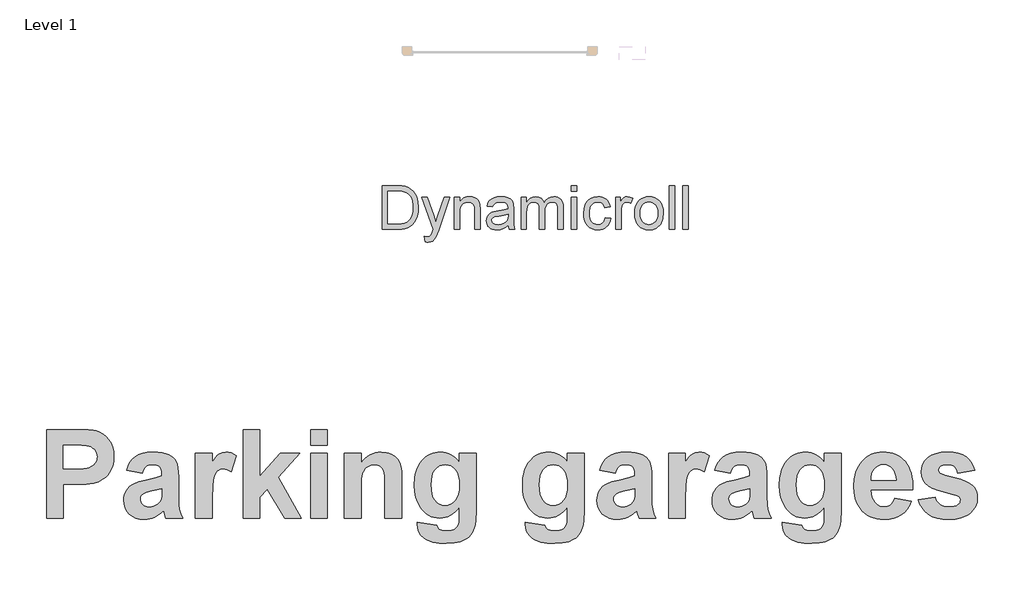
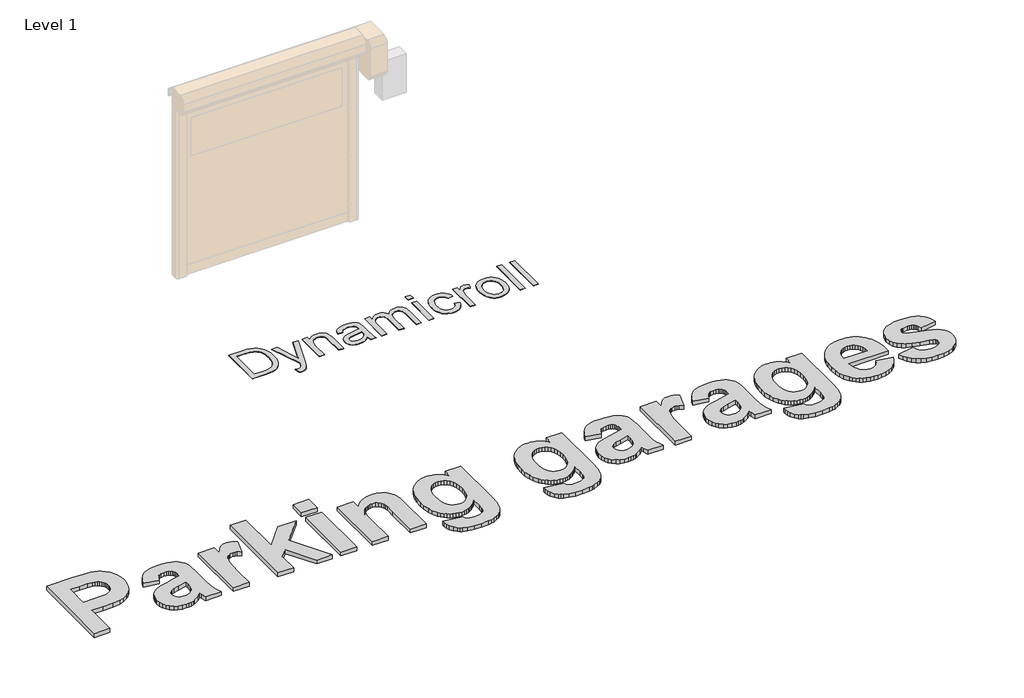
# One storey, part 17 of 17: 2 proxies.
"""IFC4 building model written with IfcOpenShell, lengths in millimetres."""

from ifc_helpers import new_model, si_unit, origin, origin_with_axes, place, context, project, spatial, polyline, outline, extrude, element, save

model = new_model("IFC4")

# Units and contexts
model_context = context("Model", 3, world=origin())
ifc_project = project(units=[si_unit("LENGTHUNIT", "METRE", prefix="MILLI")], contexts=[model_context])

# Site, building, storey
site = spatial("IfcSite", under=ifc_project)
building = spatial("IfcBuilding", under=site)
storey = spatial("IfcBuildingStorey", under=building, Name="Level 1", Elevation=0.0)

# Proxies
placement = place(None, origin())
element("IfcBuildingElementProxy", 1, Name="1000", ObjectType="1000", at=placement, inside=storey, context=model_context, shape_type="SweptSolid", body=[
    extrude(outline(polyline([(-782.7548717, 74991.5736553), (-782.7548717, 76011.8330553), (-454.0552287, 76011.8330553), (-299.6372478, 76008.0374474), (-246.8624832, 76003.2929375), (-210.3772023, 75996.6506237), (-168.5069028, 75981.9031056), (-130.1949857, 75960.4341985), (-95.441451, 75932.2439024), (-64.2462987, 75897.3322174), (-38.5073327, 75856.2842996), (-20.122357, 75809.6853052), (-9.0913716, 75757.5352344), (-5.4143765, 75699.834087), (-7.5731284, 75655.0063763), (-14.0493844, 75613.8951984), (-24.8431443, 75576.5005532), (-39.9544082, 75542.8224407), (-58.3947365, 75512.7106182), (-79.1756897, 75486.0148427), (-102.2972678, 75462.7351143), (-127.7594707, 75442.871433), (-181.4356922, 75412.6647203), (-235.9342954, 75394.6672129), (-327.3451854, 75383.8497304), (-452.283945, 75380.2439029), (-588.4197479, 75380.2439029), (-588.4197479, 74991.5736553), (-782.7548717, 74991.5736553)]), holes=[polyline([(-588.4197479, 75833.6925251), (-588.4197479, 75558.3844331), (-467.7194171, 75558.3844331), (-359.0068812, 75562.180041), (-320.8531144, 75566.9245508), (-293.5010151, 75573.5668646), (-254.3429937, 75593.0826152), (-238.3223654, 75606.0904797), (-224.673992, 75621.2650037), (-213.7695269, 75638.1791814), (-205.9806232, 75656.4060067), (-201.307281, 75675.9454798), (-199.7495003, 75696.7976007), (-201.9398823, 75722.0858382), (-208.5110285, 75745.065081), (-219.4629387, 75765.7353289), (-234.7956131, 75784.0965821), (-253.4652594, 75799.6902045), (-274.4280854, 75812.0575602), (-297.6840913, 75821.1986492), (-323.2332768, 75827.1134714), (-382.6345403, 75832.0477617), (-481.8896865, 75833.6925251), (-588.4197479, 75833.6925251)])]), origin_with_axes(), (0.0, 0.0, 1.0), 50.0),
    extrude(outline(polyline([(318.4774965, 75509.8006521), (140.3369664, 75542.1898394), (157.0771787, 75592.3551237), (178.9572766, 75635.5617934), (205.9772603, 75671.8098487), (238.1371296, 75701.0992896), (277.065833, 75723.6831565), (324.3923188, 75739.8144901), (380.1165871, 75749.4932902), (444.2386379, 75752.7195569), (502.3905137, 75750.7664003), (552.603243, 75744.9069306), (594.8768259, 75735.1411478), (629.2112622, 75721.4690519), (657.3303906, 75704.8000073), (680.9580497, 75686.0433783), (700.0942395, 75665.199165), (714.7389599, 75642.2673674), (725.5880725, 75613.2705046), (733.3374386, 75574.231096), (737.9870582, 75525.1491415), (739.5369315, 75466.0246412), (739.5369315, 75236.2638437), (742.0989668, 75150.9891866), (749.7850727, 75091.524663), (764.4930533, 75043.2571827), (788.1207124, 74991.5736553), (593.7855886, 74991.5736553), (575.5666707, 75053.3155436), (568.7345765, 75077.8604746), (518.442772, 75033.1039316), (464.7349205, 75001.062675), (436.5683469, 74989.8260942), (407.4845015, 74981.799965), (377.4833842, 74976.9842875), (346.5649949, 74975.3790617), (294.0828084, 74979.2774673), (247.467999, 74990.9726841), (206.7205668, 75010.4647121), (171.8405119, 75037.7535513), (143.8874413, 75070.9888428), (123.9209623, 75108.3202279), (111.9410749, 75149.7477065), (107.9477791, 75195.2712786), (109.7269703, 75225.9208123), (115.0645439, 75254.8623224), (123.9604999, 75282.095809), (136.4148382, 75307.621272), (152.0796283, 75330.8535553), (170.6069393, 75351.2075026), (191.9967712, 75368.6831139), (216.2491241, 75383.2803892), (278.9399144, 75407.8885804), (364.2778317, 75429.0807244), (474.7932814, 75454.0684763), (545.2018076, 75477.4114648), (545.2018076, 75497.9077474), (543.691472, 75525.2677543), (539.1604651, 75548.3893323), (531.6087869, 75567.2724815), (521.0364374, 75581.917202), (506.2889193, 75592.8770197), (486.2117351, 75600.705461), (460.8048848, 75605.4025258), (430.0683684, 75606.968214), (389.7716647, 75601.5911028), (373.3714756, 75594.8697139), (359.4700617, 75585.4597693), (347.4190067, 75572.6654077), (336.5698941, 75555.7907677), (318.4774965, 75509.8006521)]), holes=[polyline([(545.2018076, 75331.660122), (435.63526, 75304.711306), (373.6403312, 75289.2442038), (337.455536, 75273.9668821), (322.067509, 75260.9827401), (311.0760612, 75246.3222046), (304.4811925, 75229.9852757), (302.2829029, 75211.9719533), (304.0462791, 75194.1246887), (309.3364076, 75177.5268117), (318.1532884, 75162.1783223), (330.4969215, 75148.0792205), (345.5607403, 75136.2891135), (362.5381781, 75127.8676085), (381.4292349, 75122.8147055), (402.2339106, 75121.1304045), (426.3518357, 75123.0914686), (449.8687896, 75128.9746608), (472.7847722, 75138.7799812), (495.0997835, 75152.5074297), (522.3016401, 75178.9501647), (538.1166729, 75210.7067506), (543.430524, 75243.4122386), (545.2018076, 75296.4874889), (545.2018076, 75331.660122)])]), origin_with_axes(), (0.0, 0.0, 1.0), 50.0),
    extrude(outline(polyline([(1128.2071791, 74991.5736553), (933.8720553, 74991.5736553), (933.8720553, 75736.5249632), (1128.2071791, 75736.5249632), (1128.2071791, 75632.7783476), (1169.2630044, 75693.7927444), (1188.1303386, 75714.8346456), (1205.8906205, 75729.5663488), (1242.708017, 75746.9312548), (1284.3331835, 75752.7195569), (1314.935272, 75750.1575215), (1344.9996495, 75742.4714156), (1374.5263159, 75729.661239), (1403.5152711, 75711.7269917), (1346.8341933, 75526.7543673), (1300.0216961, 75550.4769166), (1277.9439102, 75556.407554), (1256.7517662, 75558.3844331), (1219.3966585, 75552.8491716), (1203.0676371, 75545.9300947), (1188.3043039, 75536.2433871), (1175.0671214, 75522.9508519), (1163.316552, 75505.2142926), (1144.2752524, 75456.4091012), (1137.2454703, 75419.6549648), (1132.2241974, 75367.0857956), (1128.2071791, 75214.5023585), (1128.2071791, 74991.5736553)])), origin_with_axes(), (0.0, 0.0, 1.0), 50.0),
    extrude(outline(polyline([(1484.4882394, 74991.5736553), (1484.4882394, 76011.8330553), (1678.8233632, 76011.8330553), (1678.8233632, 75474.121938), (1913.6449711, 75736.5249632), (2140.3692822, 75736.5249632), (1890.6182832, 75462.7351143), (2156.5638758, 74991.5736553), (1962.228752, 74991.5736553), (1765.6162635, 75325.3341088), (1678.8233632, 75230.1908711), (1678.8233632, 74991.5736553), (1484.4882394, 74991.5736553)])), origin_with_axes(), (0.0, 0.0, 1.0), 50.0),
    extrude(outline(polyline([(2261.8287346, 75833.6925251), (2261.8287346, 76011.8330553), (2456.1638584, 76011.8330553), (2456.1638584, 75833.6925251), (2261.8287346, 75833.6925251)])), origin_with_axes(), (0.0, 0.0, 1.0), 50.0),
    extrude(outline(polyline([(2261.8287346, 74991.5736553), (2261.8287346, 75736.5249632), (2456.1638584, 75736.5249632), (2456.1638584, 74991.5736553), (2261.8287346, 74991.5736553)])), origin_with_axes(), (0.0, 0.0, 1.0), 50.0),
    extrude(outline(polyline([(3314.4773218, 74991.5736553), (3120.142198, 74991.5736553), (3120.142198, 75374.4239708), (3117.1057117, 75474.628019), (3113.3101038, 75508.5987096), (3107.9962528, 75531.8151779), (3091.9914395, 75563.5085037), (3068.2688902, 75587.231053), (3037.9672873, 75602.0339238), (3002.225313, 75606.968214), (2978.0678503, 75605.2048379), (2955.1914053, 75599.9147094), (2933.5959779, 75591.0978285), (2913.2815682, 75578.7541954), (2895.1575405, 75563.4926887), (2880.1332593, 75545.9221872), (2868.2087245, 75526.0426909), (2859.3839362, 75503.8541998), (2853.0183855, 75475.5690135), (2848.4715635, 75437.3994317), (2844.834106, 75331.4070814), (2844.834106, 74991.5736553), (2650.4989822, 74991.5736553), (2650.4989822, 75736.5249632), (2844.834106, 75736.5249632), (2844.834106, 75629.2357803), (2868.6713142, 75658.1772904), (2894.0030431, 75683.2599325), (2920.8292926, 75704.4837066), (2949.1500627, 75721.8486127), (2978.9653534, 75735.3546508), (3010.2751647, 75745.0018208), (3043.0794966, 75750.7901229), (3077.3783492, 75752.7195569), (3136.4633119, 75746.8363646), (3164.0130992, 75739.4823744), (3190.2344237, 75729.186788), (3235.149117, 75702.4277524), (3252.956844, 75686.6285345), (3267.6648245, 75669.2161834), (3289.9640209, 75630.3428326), (3304.2291805, 75586.5984517), (3311.9152865, 75530.3918249), (3314.4773218, 75454.1317364), (3314.4773218, 74991.5736553)])), origin_with_axes(), (0.0, 0.0, 1.0), 50.0),
    extrude(outline(polyline([(3492.617852, 74942.9898744), (3719.3421631, 74910.6006871), (3728.0088011, 74882.0071076), (3743.381013, 74864.0412303), (3758.3894792, 74856.0704538), (3777.0986631, 74850.3770419), (3825.6191839, 74845.8223125), (3859.3052039, 74847.2614804), (3888.4997546, 74851.5789844), (3913.2028359, 74858.7748244), (3933.4144479, 74868.8490003), (3954.5433318, 74889.0289822), (3969.8522836, 74918.6979839), (3976.304817, 74953.6175764), (3978.4556615, 75009.2864921), (3978.4556615, 75117.8408777), (3953.9067767, 75088.2469974), (3928.3378223, 75062.5989679), (3901.7487983, 75040.896789), (3874.1397047, 75023.1404609), (3845.5105415, 75009.3299835), (3815.8613086, 74999.4653567), (3785.1920061, 74993.5465807), (3753.5026341, 74991.5736553), (3718.5079201, 74993.5544882), (3685.3872875, 74999.4969868), (3654.1407363, 75009.4011511), (3624.7682666, 75023.2669812), (3597.2698782, 75041.094477), (3571.6455712, 75062.8836385), (3547.8953456, 75088.6344657), (3526.0192014, 75118.3469587), (3497.2358416, 75171.5170992), (3476.6762988, 75230.8234724), (3464.3405732, 75296.2660784), (3460.2286647, 75367.8449171), (3465.6136834, 75455.9425577), (3472.3449567, 75495.8458625), (3481.7687394, 75532.9854903), (3493.8850315, 75567.3614411), (3508.6938329, 75598.9737149), (3526.1951436, 75627.8223117), (3546.3889637, 75653.9072315), (3592.1023162, 75697.1376239), (3616.9338947, 75714.1209923), (3643.0820746, 75728.0164755), (3670.5468561, 75738.8240736), (3699.328239, 75746.5437865), (3729.4262234, 75751.1756143), (3760.8408093, 75752.7195569), (3793.1351064, 75750.8889668), (3823.9744205, 75745.3971967), (3853.3587515, 75736.2442464), (3881.2880996, 75723.430116), (3907.7624646, 75706.9548055), (3932.7818466, 75686.8183149), (3956.3462455, 75663.0206442), (3978.4556615, 75635.5617934), (3978.4556615, 75736.5249632), (4172.7907853, 75736.5249632), (4172.7907853, 75074.8239883), (4167.5085643, 74960.9241216), (4160.9057881, 74916.2861914), (4151.6619014, 74879.8562632), (4140.0378522, 74849.2778971), (4126.2945887, 74822.1946534), (4110.4321107, 74798.6065319), (4092.4504183, 74778.5135326), (4071.8118005, 74761.156534), (4047.9785459, 74745.7764146), (3990.728127, 74720.946813), (3956.796974, 74711.8136315), (3918.6432072, 74705.2899305), (3829.6678323, 74700.0709696), (3744.3773601, 74703.9614677), (3672.4664057, 74715.6329619), (3613.934969, 74735.0854524), (3589.6865699, 74747.7295711), (3568.7830502, 74762.318939), (3535.1286603, 74795.530508), (3511.0898104, 74832.9172456), (3496.6665004, 74874.479152), (3491.8587304, 74920.216227), (3492.617852, 74942.9898744)]), holes=[polyline([(3654.5637885, 75375.1830924), (3657.3709568, 75317.5847427), (3665.7924618, 75268.2734703), (3679.8283035, 75227.249275), (3699.4784818, 75194.512157), (3723.2563837, 75169.492775), (3749.6753961, 75151.6217879), (3778.735519, 75140.8991956), (3810.4367524, 75137.3249982), (3844.3679054, 75140.9940858), (3875.5630577, 75152.0013487), (3904.0222093, 75170.3467868), (3929.7453603, 75196.0304001), (3951.056117, 75228.9098535), (3966.2780862, 75268.8428114), (3975.4112676, 75315.8292741), (3978.4556615, 75369.8692414), (3975.5377879, 75426.2102959), (3966.7841672, 75474.7861694), (3952.1947994, 75515.5968617), (3931.7696845, 75548.6423728), (3906.8847303, 75574.1599283), (3878.9158446, 75592.3867537), (3847.8630276, 75603.3228489), (3813.7262792, 75606.968214), (3780.5858778, 75603.3940166), (3750.4977778, 75592.6714243), (3723.4619791, 75574.8004372), (3699.4784818, 75549.7810552), (3679.8283035, 75517.423498), (3665.7924618, 75477.5379851), (3657.3709568, 75430.1245166), (3654.5637885, 75375.1830924)])]), origin_with_axes(), (0.0, 0.0, 1.0), 50.0),
    extrude(outline(polyline([(4739.601563, 74942.9898744), (4966.3258741, 74910.6006871), (4974.9925121, 74882.0071076), (4990.3647241, 74864.0412303), (5005.3731903, 74856.0704538), (5024.0823741, 74850.3770419), (5072.602895, 74845.8223125), (5106.288915, 74847.2614804), (5135.4834656, 74851.5789844), (5160.1865469, 74858.7748244), (5180.3981589, 74868.8490003), (5201.5270428, 74889.0289822), (5216.8359947, 74918.6979839), (5223.2885281, 74953.6175764), (5225.4393725, 75009.2864921), (5225.4393725, 75117.8408777), (5200.8904878, 75088.2469974), (5175.3215334, 75062.5989679), (5148.7325094, 75040.896789), (5121.1234158, 75023.1404609), (5092.4942525, 75009.3299835), (5062.8450197, 74999.4653567), (5032.1757172, 74993.5465807), (5000.4863451, 74991.5736553), (4965.4916311, 74993.5544882), (4932.3709986, 74999.4969868), (4901.1244474, 75009.4011511), (4871.7519776, 75023.2669812), (4844.2535892, 75041.094477), (4818.6292822, 75062.8836385), (4794.8790566, 75088.6344657), (4773.0029124, 75118.3469587), (4744.2195526, 75171.5170992), (4723.6600099, 75230.8234724), (4711.3242843, 75296.2660784), (4707.2123757, 75367.8449171), (4712.5973944, 75455.9425577), (4719.3286678, 75495.8458625), (4728.7524505, 75532.9854903), (4740.8687425, 75567.3614411), (4755.6775439, 75598.9737149), (4773.1788547, 75627.8223117), (4793.3726748, 75653.9072315), (4839.0860272, 75697.1376239), (4863.9176057, 75714.1209923), (4890.0657857, 75728.0164755), (4917.5305671, 75738.8240736), (4946.31195, 75746.5437865), (4976.4099345, 75751.1756143), (5007.8245204, 75752.7195569), (5040.1188175, 75750.8889668), (5070.9581315, 75745.3971967), (5100.3424626, 75736.2442464), (5128.2718106, 75723.430116), (5154.7461756, 75706.9548055), (5179.7655576, 75686.8183149), (5203.3299566, 75663.0206442), (5225.4393725, 75635.5617934), (5225.4393725, 75736.5249632), (5419.7744963, 75736.5249632), (5419.7744963, 75074.8239883), (5414.4922754, 74960.9241216), (5407.8894991, 74916.2861914), (5398.6456124, 74879.8562632), (5387.0215633, 74849.2778971), (5373.2782997, 74822.1946534), (5357.4158218, 74798.6065319), (5339.4341294, 74778.5135326), (5318.7955115, 74761.156534), (5294.962257, 74745.7764146), (5237.711838, 74720.946813), (5203.780685, 74711.8136315), (5165.6269182, 74705.2899305), (5076.6515434, 74700.0709696), (4991.3610711, 74703.9614677), (4919.4501167, 74715.6329619), (4860.9186801, 74735.0854524), (4836.670281, 74747.7295711), (4815.7667613, 74762.318939), (4782.1123714, 74795.530508), (4758.0735214, 74832.9172456), (4743.6502114, 74874.479152), (4738.8424415, 74920.216227), (4739.601563, 74942.9898744)]), holes=[polyline([(4901.5474995, 75375.1830924), (4904.3546679, 75317.5847427), (4912.7761729, 75268.2734703), (4926.8120145, 75227.249275), (4946.4621929, 75194.512157), (4970.2400948, 75169.492775), (4996.6591072, 75151.6217879), (5025.71923, 75140.8991956), (5057.4204634, 75137.3249982), (5091.3516164, 75140.9940858), (5122.5467687, 75152.0013487), (5151.0059204, 75170.3467868), (5176.7290713, 75196.0304001), (5198.0398281, 75228.9098535), (5213.2617972, 75268.8428114), (5222.3949787, 75315.8292741), (5225.4393725, 75369.8692414), (5222.521499, 75426.2102959), (5213.7678783, 75474.7861694), (5199.1785105, 75515.5968617), (5178.7533955, 75548.6423728), (5153.8684413, 75574.1599283), (5125.8995557, 75592.3867537), (5094.8467387, 75603.3228489), (5060.7099902, 75606.968214), (5027.5695889, 75603.3940166), (4997.4814889, 75592.6714243), (4970.4456902, 75574.8004372), (4946.4621929, 75549.7810552), (4926.8120145, 75517.423498), (4912.7761729, 75477.5379851), (4904.3546679, 75430.1245166), (4901.5474995, 75375.1830924)])]), origin_with_axes(), (0.0, 0.0, 1.0), 50.0),
    extrude(outline(polyline([(5776.0555566, 75509.8006521), (5597.9150265, 75542.1898394), (5614.6552388, 75592.3551237), (5636.5353367, 75635.5617934), (5663.5553204, 75671.8098487), (5695.7151897, 75701.0992896), (5734.6438931, 75723.6831565), (5781.9703789, 75739.8144901), (5837.6946472, 75749.4932902), (5901.8166979, 75752.7195569), (5959.9685738, 75750.7664003), (6010.1813031, 75744.9069306), (6052.454886, 75735.1411478), (6086.7893223, 75721.4690519), (6114.9084507, 75704.8000073), (6138.5361098, 75686.0433783), (6157.6722996, 75665.199165), (6172.31702, 75642.2673674), (6183.1661326, 75613.2705046), (6190.9154987, 75574.231096), (6195.5651183, 75525.1491415), (6197.1149915, 75466.0246412), (6197.1149915, 75236.2638437), (6199.6770269, 75150.9891866), (6207.3631328, 75091.524663), (6222.0711134, 75043.2571827), (6245.6987725, 74991.5736553), (6051.3636487, 74991.5736553), (6033.1447308, 75053.3155436), (6026.3126366, 75077.8604746), (5976.0208321, 75033.1039316), (5922.3129805, 75001.062675), (5894.146407, 74989.8260942), (5865.0625616, 74981.799965), (5835.0614442, 74976.9842875), (5804.143055, 74975.3790617), (5751.6608684, 74979.2774673), (5705.0460591, 74990.9726841), (5664.2986269, 75010.4647121), (5629.4185719, 75037.7535513), (5601.4655014, 75070.9888428), (5581.4990224, 75108.3202279), (5569.519135, 75149.7477065), (5565.5258392, 75195.2712786), (5567.3050304, 75225.9208123), (5572.642604, 75254.8623224), (5581.53856, 75282.095809), (5593.9928983, 75307.621272), (5609.6576884, 75330.8535553), (5628.1849994, 75351.2075026), (5649.5748313, 75368.6831139), (5673.8271842, 75383.2803892), (5736.5179745, 75407.8885804), (5821.8558918, 75429.0807244), (5932.3713414, 75454.0684763), (6002.7798677, 75477.4114648), (6002.7798677, 75497.9077474), (6001.2695321, 75525.2677543), (5996.7385252, 75548.3893323), (5989.186847, 75567.2724815), (5978.6144975, 75581.917202), (5963.8669794, 75592.8770197), (5943.7897952, 75600.705461), (5918.3829449, 75605.4025258), (5887.6464285, 75606.968214), (5847.3497248, 75601.5911028), (5830.9495357, 75594.8697139), (5817.0481218, 75585.4597693), (5804.9970668, 75572.6654077), (5794.1479542, 75555.7907677), (5776.0555566, 75509.8006521)]), holes=[polyline([(6002.7798677, 75331.660122), (5893.2133201, 75304.711306), (5831.2183913, 75289.2442038), (5795.0335961, 75273.9668821), (5779.6455691, 75260.9827401), (5768.6541213, 75246.3222046), (5762.0592526, 75229.9852757), (5759.860963, 75211.9719533), (5761.6243391, 75194.1246887), (5766.9144676, 75177.5268117), (5775.7313485, 75162.1783223), (5788.0749816, 75148.0792205), (5803.1388004, 75136.2891135), (5820.1162382, 75127.8676085), (5839.0072949, 75122.8147055), (5859.8119707, 75121.1304045), (5883.9298958, 75123.0914686), (5907.4468496, 75128.9746608), (5930.3628323, 75138.7799812), (5952.6778436, 75152.5074297), (5979.8797002, 75178.9501647), (5995.694733, 75210.7067506), (6001.0085841, 75243.4122386), (6002.7798677, 75296.4874889), (6002.7798677, 75331.660122)])]), origin_with_axes(), (0.0, 0.0, 1.0), 50.0),
    extrude(outline(polyline([(6585.7852391, 74991.5736553), (6391.4501153, 74991.5736553), (6391.4501153, 75736.5249632), (6585.7852391, 75736.5249632), (6585.7852391, 75632.7783476), (6626.8410644, 75693.7927444), (6645.7083987, 75714.8346456), (6663.4686806, 75729.5663488), (6700.2860771, 75746.9312548), (6741.9112435, 75752.7195569), (6772.5133321, 75750.1575215), (6802.5777096, 75742.4714156), (6832.104376, 75729.661239), (6861.0933312, 75711.7269917), (6804.4122534, 75526.7543673), (6757.5997561, 75550.4769166), (6735.5219703, 75556.407554), (6714.3298262, 75558.3844331), (6676.9747186, 75552.8491716), (6660.6456972, 75545.9300947), (6645.882364, 75536.2433871), (6632.6451815, 75522.9508519), (6620.8946121, 75505.2142926), (6601.8533125, 75456.4091012), (6594.8235304, 75419.6549648), (6589.8022575, 75367.0857956), (6585.7852391, 75214.5023585), (6585.7852391, 74991.5736553)])), origin_with_axes(), (0.0, 0.0, 1.0), 50.0),
    extrude(outline(polyline([(7104.0122359, 75509.8006521), (6925.8717058, 75542.1898394), (6942.6119181, 75592.3551237), (6964.492016, 75635.5617934), (6991.5119997, 75671.8098487), (7023.671869, 75701.0992896), (7062.6005724, 75723.6831565), (7109.9270582, 75739.8144901), (7165.6513265, 75749.4932902), (7229.7733773, 75752.7195569), (7287.9252531, 75750.7664003), (7338.1379824, 75744.9069306), (7380.4115653, 75735.1411478), (7414.7460016, 75721.4690519), (7442.86513, 75704.8000073), (7466.4927891, 75686.0433783), (7485.6289789, 75665.199165), (7500.2736993, 75642.2673674), (7511.1228119, 75613.2705046), (7518.872178, 75574.231096), (7523.5217976, 75525.1491415), (7525.0716708, 75466.0246412), (7525.0716708, 75236.2638437), (7527.6337062, 75150.9891866), (7535.3198121, 75091.524663), (7550.0277927, 75043.2571827), (7573.6554518, 74991.5736553), (7379.320328, 74991.5736553), (7361.1014101, 75053.3155436), (7354.2693159, 75077.8604746), (7303.9775114, 75033.1039316), (7250.2696598, 75001.062675), (7222.1030863, 74989.8260942), (7193.0192409, 74981.799965), (7163.0181236, 74976.9842875), (7132.0997343, 74975.3790617), (7079.6175478, 74979.2774673), (7033.0027384, 74990.9726841), (6992.2553062, 75010.4647121), (6957.3752513, 75037.7535513), (6929.4221807, 75070.9888428), (6909.4557017, 75108.3202279), (6897.4758143, 75149.7477065), (6893.4825185, 75195.2712786), (6895.2617097, 75225.9208123), (6900.5992833, 75254.8623224), (6909.4952393, 75282.095809), (6921.9495776, 75307.621272), (6937.6143677, 75330.8535553), (6956.1416787, 75351.2075026), (6977.5315106, 75368.6831139), (7001.7838635, 75383.2803892), (7064.4746538, 75407.8885804), (7149.8125711, 75429.0807244), (7260.3280207, 75454.0684763), (7330.736547, 75477.4114648), (7330.736547, 75497.9077474), (7329.2262114, 75525.2677543), (7324.6952045, 75548.3893323), (7317.1435263, 75567.2724815), (7306.5711768, 75581.917202), (7291.8236587, 75592.8770197), (7271.7464745, 75600.705461), (7246.3396242, 75605.4025258), (7215.6031078, 75606.968214), (7175.3064041, 75601.5911028), (7158.906215, 75594.8697139), (7145.0048011, 75585.4597693), (7132.9537461, 75572.6654077), (7122.1046335, 75555.7907677), (7104.0122359, 75509.8006521)]), holes=[polyline([(7330.736547, 75331.660122), (7221.1699994, 75304.711306), (7159.1750706, 75289.2442038), (7122.9902754, 75273.9668821), (7107.6022484, 75260.9827401), (7096.6108006, 75246.3222046), (7090.0159319, 75229.9852757), (7087.8176423, 75211.9719533), (7089.5810185, 75194.1246887), (7094.871147, 75177.5268117), (7103.6880278, 75162.1783223), (7116.0316609, 75148.0792205), (7131.0954797, 75136.2891135), (7148.0729175, 75127.8676085), (7166.9639742, 75122.8147055), (7187.76865, 75121.1304045), (7211.8865751, 75123.0914686), (7235.403529, 75128.9746608), (7258.3195116, 75138.7799812), (7280.6345229, 75152.5074297), (7307.8363795, 75178.9501647), (7323.6514123, 75210.7067506), (7328.9652634, 75243.4122386), (7330.736547, 75296.4874889), (7330.736547, 75331.660122)])]), origin_with_axes(), (0.0, 0.0, 1.0), 50.0),
    extrude(outline(polyline([(7703.212201, 74942.9898744), (7929.9365121, 74910.6006871), (7938.6031501, 74882.0071076), (7953.975362, 74864.0412303), (7968.9838282, 74856.0704538), (7987.6930121, 74850.3770419), (8036.2135329, 74845.8223125), (8069.8995529, 74847.2614804), (8099.0941036, 74851.5789844), (8123.7971849, 74858.7748244), (8144.0087969, 74868.8490003), (8165.1376808, 74889.0289822), (8180.4466326, 74918.6979839), (8186.899166, 74953.6175764), (8189.0500105, 75009.2864921), (8189.0500105, 75117.8408777), (8164.5011257, 75088.2469974), (8138.9321714, 75062.5989679), (8112.3431474, 75040.896789), (8084.7340537, 75023.1404609), (8056.1048905, 75009.3299835), (8026.4556577, 74999.4653567), (7995.7863552, 74993.5465807), (7964.0969831, 74991.5736553), (7929.1022691, 74993.5544882), (7895.9816365, 74999.4969868), (7864.7350854, 75009.4011511), (7835.3626156, 75023.2669812), (7807.8642272, 75041.094477), (7782.2399202, 75062.8836385), (7758.4896946, 75088.6344657), (7736.6135504, 75118.3469587), (7707.8301906, 75171.5170992), (7687.2706479, 75230.8234724), (7674.9349222, 75296.2660784), (7670.8230137, 75367.8449171), (7676.2080324, 75455.9425577), (7682.9393057, 75495.8458625), (7692.3630885, 75532.9854903), (7704.4793805, 75567.3614411), (7719.2881819, 75598.9737149), (7736.7894926, 75627.8223117), (7756.9833127, 75653.9072315), (7802.6966652, 75697.1376239), (7827.5282437, 75714.1209923), (7853.6764236, 75728.0164755), (7881.1412051, 75738.8240736), (7909.922588, 75746.5437865), (7940.0205724, 75751.1756143), (7971.4351583, 75752.7195569), (8003.7294554, 75750.8889668), (8034.5687695, 75745.3971967), (8063.9531006, 75736.2442464), (8091.8824486, 75723.430116), (8118.3568136, 75706.9548055), (8143.3761956, 75686.8183149), (8166.9405946, 75663.0206442), (8189.0500105, 75635.5617934), (8189.0500105, 75736.5249632), (8383.3851343, 75736.5249632), (8383.3851343, 75074.8239883), (8378.1029133, 74960.9241216), (8371.5001371, 74916.2861914), (8362.2562504, 74879.8562632), (8350.6322012, 74849.2778971), (8336.8889377, 74822.1946534), (8321.0264597, 74798.6065319), (8303.0447674, 74778.5135326), (8282.4061495, 74761.156534), (8258.572895, 74745.7764146), (8201.322476, 74720.946813), (8167.391323, 74711.8136315), (8129.2375562, 74705.2899305), (8040.2621813, 74700.0709696), (7954.9717091, 74703.9614677), (7883.0607547, 74715.6329619), (7824.5293181, 74735.0854524), (7800.2809189, 74747.7295711), (7779.3773993, 74762.318939), (7745.7230093, 74795.530508), (7721.6841594, 74832.9172456), (7707.2608494, 74874.479152), (7702.4530794, 74920.216227), (7703.212201, 74942.9898744)]), holes=[polyline([(7865.1581375, 75375.1830924), (7867.9653058, 75317.5847427), (7876.3868108, 75268.2734703), (7890.4226525, 75227.249275), (7910.0728308, 75194.512157), (7933.8507327, 75169.492775), (7960.2697451, 75151.6217879), (7989.329868, 75140.8991956), (8021.0311014, 75137.3249982), (8054.9622544, 75140.9940858), (8086.1574067, 75152.0013487), (8114.6165583, 75170.3467868), (8140.3397093, 75196.0304001), (8161.6504661, 75228.9098535), (8176.8724352, 75268.8428114), (8186.0056167, 75315.8292741), (8189.0500105, 75369.8692414), (8186.1321369, 75426.2102959), (8177.3785162, 75474.7861694), (8162.7891484, 75515.5968617), (8142.3640335, 75548.6423728), (8117.4790793, 75574.1599283), (8089.5101937, 75592.3867537), (8058.4573766, 75603.3228489), (8024.3206282, 75606.968214), (7991.1802269, 75603.3940166), (7961.0921268, 75592.6714243), (7934.0563282, 75574.8004372), (7910.0728308, 75549.7810552), (7890.4226525, 75517.423498), (7876.3868108, 75477.5379851), (7867.9653058, 75430.1245166), (7865.1581375, 75375.1830924)])]), origin_with_axes(), (0.0, 0.0, 1.0), 50.0),
    extrude(outline(polyline([(8998.779693, 75218.2979664), (9193.1148168, 75185.9087791), (9172.1124532, 75137.491056), (9145.7962385, 75095.2253807), (9114.1661728, 75059.1117531), (9077.222256, 75029.1501734), (9035.1384536, 75005.625312), (8988.0887308, 74988.8218396), (8936.0730877, 74978.7397561), (8879.0915243, 74975.3790617), (8833.5560909, 74977.3598945), (8791.0808664, 74983.3023931), (8751.6658508, 74993.2065575), (8715.311044, 75007.0723875), (8682.0164461, 75024.8998833), (8651.782057, 75046.6890448), (8624.6078768, 75072.4398721), (8600.4939054, 75102.1523651), (8569.2750306, 75156.2239624), (8546.9758342, 75216.9695037), (8533.5963164, 75284.3889887), (8529.1364772, 75358.4824177), (8535.0512994, 75445.8446592), (8542.4448273, 75485.7776172), (8552.7957663, 75523.2118), (8566.1041165, 75558.1472076), (8582.3698778, 75590.58384), (8601.5930502, 75620.5216972), (8623.7736338, 75647.9607792), (8648.2157671, 75672.5136177), (8674.2235886, 75693.7927444), (8701.7970984, 75711.7981593), (8730.9362965, 75726.5298624), (8761.6411828, 75737.9878538), (8793.9117573, 75746.1721333), (8827.7480201, 75751.082701), (8863.1499712, 75752.7195569), (8902.6915071, 75751.0392096), (8940.0901061, 75745.9981679), (8975.3457681, 75737.5964317), (9008.4584931, 75725.834001), (9039.4282812, 75710.7108758), (9068.2551324, 75692.2270562), (9094.9390466, 75670.382542), (9119.4800238, 75645.1773334), (9141.4194281, 75616.5007251), (9160.2986236, 75584.2420118), (9176.1176102, 75548.4011936), (9188.876388, 75508.9782704), (9198.5749569, 75465.9732423), (9205.2133169, 75419.3861092), (9208.7914681, 75369.2168712), (9209.3094105, 75315.4655283), (8723.471601, 75315.4655283), (8727.0932435, 75271.9741879), (8735.9338468, 75233.6069182), (8749.9934111, 75200.3637191), (8769.2719361, 75172.2445907), (8792.5042194, 75149.8821343), (8818.4250583, 75133.9089511), (8847.0344527, 75124.3250411), (8878.3324027, 75121.1304045), (8919.1351875, 75126.8870765), (8936.9270995, 75134.0829164), (8952.9793578, 75144.1570924), (8967.2287024, 75157.4259049), (8979.6118732, 75174.2056548), (8998.779693, 75218.2979664)]), holes=[polyline([(9014.9742867, 75428.8276839), (9011.5107945, 75469.8597866), (9003.1446421, 75505.6571135), (8989.8758295, 75536.2196645), (8971.7043567, 75561.5474396), (8949.9745016, 75581.4190284), (8926.0305418, 75595.6130204), (8899.8724775, 75604.1294156), (8871.5003085, 75606.968214), (8841.3568559, 75603.9791728), (8813.9335889, 75595.0120492), (8789.2305076, 75580.0668431), (8767.2476119, 75559.1435546), (8749.3449947, 75532.9696753), (8736.6297083, 75502.525737), (8729.1017527, 75467.8117399), (8726.7611278, 75428.8276839), (9014.9742867, 75428.8276839)])]), origin_with_axes(), (0.0, 0.0, 1.0), 50.0),
    extrude(outline(polyline([(9274.0877851, 75202.1033728), (9468.4229089, 75234.4925601), (9476.0852923, 75208.3344957), (9486.9264973, 75185.5292183), (9500.9465239, 75166.0767279), (9518.1453722, 75149.9770245), (9538.7918976, 75137.3566282), (9563.1549557, 75128.3420595), (9591.2345465, 75122.9333183), (9623.0306701, 75121.1304045), (9657.8079274, 75122.8542431), (9687.9988251, 75128.0257588), (9713.6033633, 75136.6449517), (9734.621542, 75148.7118218), (9745.692065, 75159.1497435), (9753.5995814, 75171.2324286), (9758.3440913, 75184.9598771), (9759.9255946, 75200.3320891), (9756.5728076, 75220.4488109), (9746.5144467, 75236.7699248), (9723.551019, 75250.1178125), (9683.0012747, 75262.3270179), (9578.6378729, 75287.7259607), (9495.3084647, 75312.0494812), (9433.0130503, 75335.2975795), (9391.7516295, 75357.4702556), (9354.443967, 75390.5078592), (9327.7956367, 75429.397025), (9311.8066384, 75474.137753), (9306.4769724, 75524.7300431), (9311.0475169, 75571.0206443), (9324.7591503, 75613.4840076), (9347.6118728, 75652.1201328), (9379.6056843, 75686.9290202), (9421.2150358, 75715.71238), (9472.9143782, 75736.2719227), (9534.7037116, 75748.6076483), (9606.5830359, 75752.7195569), (9675.0146831, 75749.3984), (9734.0522008, 75739.4349293), (9783.695589, 75722.8291448), (9823.9448476, 75699.5810465), (9856.7294107, 75669.8171546), (9883.9787123, 75633.6639895), (9905.6927524, 75591.1215511), (9921.8715311, 75542.1898394), (9727.5364073, 75509.8006521), (9713.2396176, 75551.3625585), (9702.7700658, 75568.0157881), (9690.0864094, 75581.917202), (9674.8407178, 75592.8770197), (9656.68506, 75600.705461), (9635.6194363, 75605.4025258), (9611.6438465, 75606.968214), (9556.2912314, 75601.654363), (9535.4944632, 75595.0120492), (9519.2840545, 75585.7128098), (9505.4300858, 75568.2530136), (9500.8120962, 75546.2384878), (9505.4300858, 75527.1971883), (9519.2840545, 75511.0658547), (9539.3296087, 75500.4539677), (9574.6682996, 75487.8493865), (9691.2250918, 75456.6621417), (9759.2376406, 75438.047848), (9816.1322214, 75417.3776001), (9861.908834, 75394.6513978), (9896.5674785, 75369.8692414), (9921.8082709, 75341.1016966), (9939.8374084, 75307.1784511), (9950.6548909, 75268.0995049), (9954.2607184, 75223.864858), (9949.03385, 75174.6721983), (9933.3532449, 75129.069551), (9907.2189031, 75087.0569162), (9870.6308246, 75048.6342939), (9848.4680329, 75031.4650988), (9823.7946048, 75016.5851298), (9766.9158391, 74993.6928697), (9699.9945275, 74979.9575137), (9623.0306701, 74975.3790617), (9552.5193461, 74979.1904846), (9489.7732032, 74990.6247533), (9434.7922415, 75009.6818679), (9387.5764609, 75036.3618284), (9347.9835261, 75069.5892124), (9315.8711019, 75108.2885978), (9291.2391882, 75152.4599846), (9274.0877851, 75202.1033728)])), origin_with_axes(), (0.0, 0.0, 1.0), 50.0),
])
element("IfcBuildingElementProxy", 2, Name="500mm", ObjectType="500mm", at=placement, inside=storey, context=model_context, shape_type="SweptSolid", body=[
    extrude(outline(polyline([(3089.0858568, 78322.105087), (3089.0858568, 78824.3866377), (3262.3582766, 78824.3866377), (3314.1376674, 78822.5778846), (3351.9988561, 78817.1516251), (3392.0366799, 78803.2027661), (3425.8205098, 78781.2218169), (3444.4368716, 78763.2569128), (3460.5547015, 78742.9620894), (3474.1739995, 78720.3373467), (3485.2947657, 78695.3826847), (3500.102016, 78639.4033078), (3505.0377661, 78575.9436636), (3501.6961713, 78522.0336229), (3491.6713869, 78474.592174), (3476.4042841, 78434.2017966), (3457.335734, 78401.4449706), (3435.3854416, 78375.585932), (3411.473112, 78355.8889168), (3384.0199181, 78341.280936), (3351.4470331, 78330.6890002), (3313.6931433, 78324.2510653), (3270.6969351, 78322.105087), (3089.0858568, 78322.105087)]), holes=[polyline([(3151.8710507, 78384.8902808), (3262.9714132, 78384.8902808), (3308.9260058, 78387.1588864), (3343.7828248, 78393.9647033), (3370.0863875, 78404.9091927), (3390.3812109, 78419.5938157), (3412.1935475, 78446.7710981), (3428.5796247, 78481.9498139), (3438.8343353, 78525.2832472), (3442.2525722, 78576.9246823), (3440.5779427, 78613.3756566), (3435.5540542, 78645.3507334), (3427.1809067, 78672.8499125), (3415.4585002, 78695.8731941), (3401.3371966, 78714.9417441), (3385.7673575, 78730.5767289), (3368.7489832, 78742.7781484), (3350.2820734, 78751.5460027), (3314.1683242, 78759.0875836), (3261.2546306, 78761.6014439), (3151.8710507, 78761.6014439), (3151.8710507, 78384.8902808)])]), origin_with_axes(), (0.0, 0.0, 1.0), 5.0),
    extrude(outline(polyline([(3583.5192584, 78180.8384008), (3575.6711091, 78241.2936753), (3607.5542154, 78235.7754454), (3624.323503, 78237.5075565), (3637.352657, 78242.7038897), (3647.5000687, 78250.996563), (3655.6241294, 78262.0176944), (3672.7919559, 78308.2481985), (3677.6970491, 78323.4539876), (3544.2785122, 78690.9681008), (3610.4972713, 78690.9681008), (3681.2532418, 78486.1804568), (3705.9013354, 78404.2653992), (3730.5494291, 78476.6155249), (3803.2674368, 78690.9681008), (3868.9956866, 78690.9681008), (3740.6048703, 78313.2759191), (3707.2502361, 78231.3608615), (3690.1743801, 78205.210583), (3670.8299186, 78187.0923947), (3648.35846, 78176.5157874), (3621.9016132, 78172.9902516), (3603.7221113, 78174.9522889), (3583.5192584, 78180.8384008)])), origin_with_axes(), (0.0, 0.0, 1.0), 5.0),
    extrude(outline(polyline([(3920.9896753, 78322.105087), (3920.9896753, 78690.9681008), (3983.7748691, 78690.9681008), (3983.7748691, 78639.4646215), (4005.5872057, 78665.430959), (4031.7834695, 78683.9783429), (4062.3636603, 78695.1067732), (4097.3277783, 78698.81625), (4128.2758511, 78695.8272088), (4156.6180932, 78686.8600852), (4180.2545114, 78673.0338535), (4197.0851127, 78655.4674882), (4208.5047829, 78634.2069746), (4215.9084081, 78609.2982979), (4219.219346, 78548.5977686), (4219.219346, 78322.105087), (4156.4341522, 78322.105087), (4156.4341522, 78540.1364828), (4154.625399, 78572.6020688), (4149.1991396, 78595.686664), (4139.1896837, 78612.2260254), (4123.631341, 78625.05591), (4103.6890711, 78633.2872696), (4080.5278338, 78636.0310562), (4061.4631159, 78634.4905503), (4043.7549627, 78629.8690327), (4027.4033745, 78622.1665035), (4012.4083511, 78611.3829625), (3999.8812027, 78596.2921365), (3990.9332396, 78575.6677521), (3985.5644617, 78549.5098094), (3983.7748691, 78517.8183084), (3983.7748691, 78322.105087), (3920.9896753, 78322.105087)])), origin_with_axes(), (0.0, 0.0, 1.0), 5.0),
    extrude(outline(polyline([(4540.9934645, 78369.1939823), (4510.9957535, 78343.4728995), (4480.1089943, 78326.6422982), (4447.6280798, 78317.3532778), (4412.8479028, 78314.2569377), (4384.8927033, 78316.1193403), (4360.3787333, 78321.7065481), (4339.3059927, 78331.0185611), (4321.6744817, 78344.0553793), (4307.7524474, 78359.9892682), (4297.8081373, 78377.9924934), (4291.8415511, 78398.0650547), (4289.8526891, 78420.2069523), (4292.8570587, 78446.2346035), (4301.8701676, 78469.8710217), (4315.7730413, 78490.1045314), (4333.4467055, 78505.9234572), (4354.2167098, 78517.8796221), (4377.408604, 78526.5248489), (4431.7325119, 78535.9671535), (4495.9279201, 78545.8999674), (4540.6255825, 78557.5495639), (4540.9934645, 78571.5290797), (4536.670851, 78599.549425), (4523.7030107, 78617.8822111), (4510.6278715, 78625.8223308), (4494.7016468, 78631.4938449), (4454.2959409, 78636.0310562), (4416.8946048, 78633.0113581), (4390.7749831, 78623.952264), (4372.9633632, 78607.1983048), (4360.4860322, 78581.0940116), (4297.7008383, 78588.9421608), (4308.5993424, 78623.2778137), (4324.8627923, 78650.2558266), (4348.0087012, 78670.8878752), (4379.5545823, 78686.1856348), (4418.1362065, 78695.6585962), (4462.3893448, 78698.81625), (4504.83373, 78696.0264782), (4538.4796042, 78687.6571628), (4563.8481334, 78675.0725329), (4581.4604839, 78659.6368175), (4593.1407373, 78640.552939), (4600.712975, 78617.0238198), (4603.7786583, 78562.0867751), (4603.7786583, 78483.9731648), (4606.9669689, 78374.8961533), (4611.6881212, 78347.9334687), (4619.4749568, 78322.105087), (4556.6897629, 78322.105087), (4546.6343217, 78343.932752), (4540.9934645, 78369.1939823)]), holes=[polyline([(4540.9934645, 78494.76437), (4498.8096624, 78484.31039), (4439.7032885, 78475.5118789), (4385.6859488, 78465.3338104), (4371.6297909, 78458.3747093), (4361.2217962, 78448.7791206), (4354.7838613, 78437.2828083), (4352.6378829, 78424.6215363), (4357.31305, 78405.951525), (4371.338551, 78390.6537654), (4394.4078178, 78380.44504), (4426.214282, 78377.0421316), (4459.9367982, 78380.7975936), (4489.7352398, 78392.0639797), (4513.8928242, 78408.6646547), (4530.6927686, 78428.4229836), (4538.142379, 78448.7791206), (4540.6255825, 78476.9834069), (4540.9934645, 78494.76437)])]), origin_with_axes(), (0.0, 0.0, 1.0), 5.0),
    extrude(outline(polyline([(4690.1082999, 78322.105087), (4690.1082999, 78690.9681008), (4752.8934937, 78690.9681008), (4752.8934937, 78630.2675716), (4771.7781028, 78658.1499611), (4796.0583145, 78679.9929546), (4824.9063943, 78694.1104262), (4857.4946077, 78698.81625), (4892.4127404, 78694.0184557), (4920.4024288, 78679.6250726), (4941.3103889, 78656.5864626), (4954.9833364, 78625.8529876), (4977.8686622, 78657.7744149), (5003.9729554, 78680.5754344), (5033.2962161, 78694.2560461), (5065.8384443, 78698.81625), (5090.9732152, 78696.9193585), (5113.0346386, 78691.2286839), (5132.0227145, 78681.7442262), (5147.9374429, 78668.4659854), (5160.5182407, 78651.2406774), (5169.5045248, 78629.915018), (5174.8962953, 78604.4890072), (5176.6935521, 78574.962645), (5176.6935521, 78322.105087), (5113.9083583, 78322.105087), (5113.9083583, 78547.984632), (5112.4521587, 78579.3005868), (5108.08356, 78600.4078163), (5099.8981857, 78614.862513), (5086.991659, 78626.2208696), (5070.390984, 78633.5785095), (5051.1231645, 78636.0310562), (5033.330705, 78634.4598935), (5017.1094083, 78629.7464054), (5002.4592743, 78621.890592), (4989.3803029, 78610.8924532), (4978.6235867, 78596.4300922), (4970.9402179, 78578.1816124), (4966.3301967, 78556.1470138), (4964.7935229, 78530.3262962), (4964.7935229, 78322.105087), (4902.0083291, 78322.105087), (4902.0083291, 78554.9743899), (4898.3754944, 78590.4750024), (4887.4769903, 78615.7975464), (4879.0501933, 78624.6497069), (4868.3011413, 78630.9726787), (4839.8362719, 78636.0310562), (4815.6480307, 78632.6588045), (4793.3605132, 78622.5420497), (4774.9664134, 78605.9260462), (4762.4584256, 78583.0560489), (4755.2847267, 78551.3262268), (4752.8934937, 78508.1307492), (4752.8934937, 78322.105087), (4690.1082999, 78322.105087)])), origin_with_axes(), (0.0, 0.0, 1.0), 5.0),
    extrude(outline(polyline([(5270.8713429, 78761.6014439), (5270.8713429, 78824.3866377), (5333.6565368, 78824.3866377), (5333.6565368, 78761.6014439), (5270.8713429, 78761.6014439)])), origin_with_axes(), (0.0, 0.0, 1.0), 5.0),
    extrude(outline(polyline([(5270.8713429, 78322.105087), (5270.8713429, 78690.9681008), (5333.6565368, 78690.9681008), (5333.6565368, 78322.105087), (5270.8713429, 78322.105087)])), origin_with_axes(), (0.0, 0.0, 1.0), 5.0),
    extrude(outline(polyline([(5663.2788044, 78455.5236239), (5726.0639983, 78447.6754746), (5719.2351887, 78418.0494777), (5708.5589467, 78391.8340535), (5694.0352721, 78369.0292019), (5675.6641649, 78349.6349229), (5654.2197103, 78334.1570544), (5630.4759932, 78323.101434), (5604.4330136, 78316.4680618), (5576.0907716, 78314.2569377), (5540.8775668, 78317.3417815), (5509.304861, 78326.596313), (5481.3726541, 78342.020532), (5457.0809461, 78363.6144387), (5437.4184199, 78390.97183), (5423.3737583, 78423.6865029), (5414.9469614, 78461.7584573), (5412.1380291, 78505.1876932), (5416.9358234, 78561.0597712), (5431.3292065, 78609.4822389), (5442.1817253, 78630.4323521), (5455.5481045, 78648.5850293), (5471.4283439, 78663.9402704), (5489.8224437, 78676.4980756), (5530.8259578, 78693.2367064), (5575.2323803, 78698.81625), (5603.0879451, 78696.900198), (5628.2840296, 78691.1520418), (5650.8206339, 78681.5717815), (5670.697758, 78668.1594171), (5687.5781766, 78651.2215169), (5701.1246647, 78631.0646492), (5711.3372222, 78607.6888141), (5718.215849, 78581.0940116), (5655.4306552, 78573.2458623), (5644.0416418, 78600.6377425), (5626.3066639, 78620.273444), (5603.2067403, 78632.0916531), (5575.7228896, 78636.0310562), (5554.389566, 78634.0920115), (5535.1485712, 78628.2748774), (5517.9999053, 78618.579654), (5502.9435682, 78605.0063412), (5490.6846671, 78587.2407066), (5481.9283092, 78564.9685174), (5476.6744945, 78538.1897739), (5474.9232229, 78506.9044759), (5476.6361734, 78475.147829), (5481.7750251, 78448.0586851), (5490.3397778, 78425.6370439), (5502.3304315, 78407.8829055), (5517.0878645, 78394.3900669), (5533.9529547, 78384.752325), (5552.9257022, 78378.9696799), (5574.0061069, 78377.0421316), (5606.5176783, 78381.8552543), (5633.1737945, 78396.2946226), (5643.9535034, 78407.2161194), (5652.5642413, 78420.7281185), (5663.2788044, 78455.5236239)])), origin_with_axes(), (0.0, 0.0, 1.0), 5.0),
    extrude(outline(polyline([(5781.0010429, 78322.105087), (5781.0010429, 78690.9681008), (5835.9380875, 78690.9681008), (5835.9380875, 78636.3989382), (5856.2329109, 78668.0367897), (5874.933579, 78686.6761442), (5893.6955607, 78695.7812236), (5914.1743251, 78698.81625), (5945.4442947, 78693.9724704), (5977.2047736, 78679.4411316), (5956.2354999, 78623.1551863), (5934.1625802, 78632.8120887), (5912.0896605, 78636.0310562), (5893.3430072, 78632.934716), (5876.589048, 78623.6456957), (5863.0540562, 78608.8691022), (5853.9643053, 78589.3100428), (5846.3307539, 78554.2386259), (5843.7862367, 78515.9788984), (5843.7862367, 78322.105087), (5781.0010429, 78322.105087)])), origin_with_axes(), (0.0, 0.0, 1.0), 5.0),
    extrude(outline(polyline([(6000.7492213, 78506.5365939), (6004.1444656, 78554.3076038), (6014.3301983, 78595.4720662), (6031.3064196, 78630.0299811), (6055.0731293, 78657.9813485), (6079.0007874, 78675.8466179), (6105.411649, 78688.6075246), (6134.305714, 78696.2640687), (6165.6829825, 78698.81625), (6200.3213716, 78695.7084136), (6231.6411586, 78686.3849043), (6259.6423433, 78670.8457221), (6284.324926, 78649.090867), (6304.4702973, 78621.856103), (6318.8598483, 78589.8771942), (6327.4935788, 78553.1541404), (6330.371489, 78511.6869418), (6325.2824548, 78448.2579545), (6318.9211619, 78422.2226391), (6310.015352, 78399.9734426), (6298.6761559, 78380.7554405), (6285.0147047, 78363.8137082), (6269.0309984, 78349.1482457), (6250.7250371, 78336.7590531), (6209.9974345, 78319.8824666), (6165.6829825, 78314.2569377), (6130.5387557, 78317.3532778), (6098.9277288, 78326.6422982), (6070.8499019, 78342.1239989), (6046.3052751, 78363.7983797), (6026.3745016, 78391.2975589), (6012.1382348, 78424.2536543), (6003.5964747, 78462.6666659), (6000.7492213, 78506.5365939)]), holes=[polyline([(6063.5344152, 78506.6592212), (6065.3508325, 78476.2054898), (6070.8000846, 78449.8367814), (6079.8821713, 78427.5530959), (6092.5970928, 78409.3544335), (6108.063465, 78395.2178014), (6125.399904, 78385.120207), (6144.6064099, 78379.0616504), (6165.6829825, 78377.0421316), (6186.6522562, 78379.0731467), (6205.78212, 78385.1661923), (6223.0725738, 78395.3212682), (6238.5236176, 78409.5383745), (6251.238539, 78427.9171458), (6260.3206258, 78450.5572169), (6265.7698778, 78477.4585878), (6267.5862952, 78508.6212585), (6265.7583815, 78538.1092997), (6260.2746405, 78563.7882294), (6251.1350722, 78585.6580476), (6238.3396766, 78603.7187543), (6222.8311512, 78617.8553863), (6205.5521937, 78627.9529807), (6186.5028042, 78634.0115373), (6165.6829825, 78636.0310562), (6144.6064099, 78634.0192015), (6125.399904, 78627.9836375), (6108.063465, 78617.9243642), (6092.5970928, 78603.8413816), (6079.8821713, 78585.6963686), (6070.8000846, 78563.4510042), (6065.3508325, 78537.1052884), (6063.5344152, 78506.6592212)])]), origin_with_axes(), (0.0, 0.0, 1.0), 5.0),
    extrude(outline(polyline([(6401.0048321, 78322.105087), (6401.0048321, 78824.3866377), (6463.7900259, 78824.3866377), (6463.7900259, 78322.105087), (6401.0048321, 78322.105087)])), origin_with_axes(), (0.0, 0.0, 1.0), 5.0),
    extrude(outline(polyline([(6557.9678167, 78322.105087), (6557.9678167, 78824.3866377), (6620.7530105, 78824.3866377), (6620.7530105, 78322.105087), (6557.9678167, 78322.105087)])), origin_with_axes(), (0.0, 0.0, 1.0), 5.0),
])

save(model, "model.ifc")
